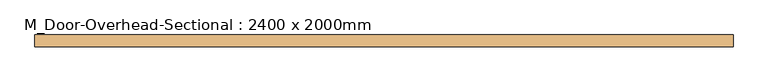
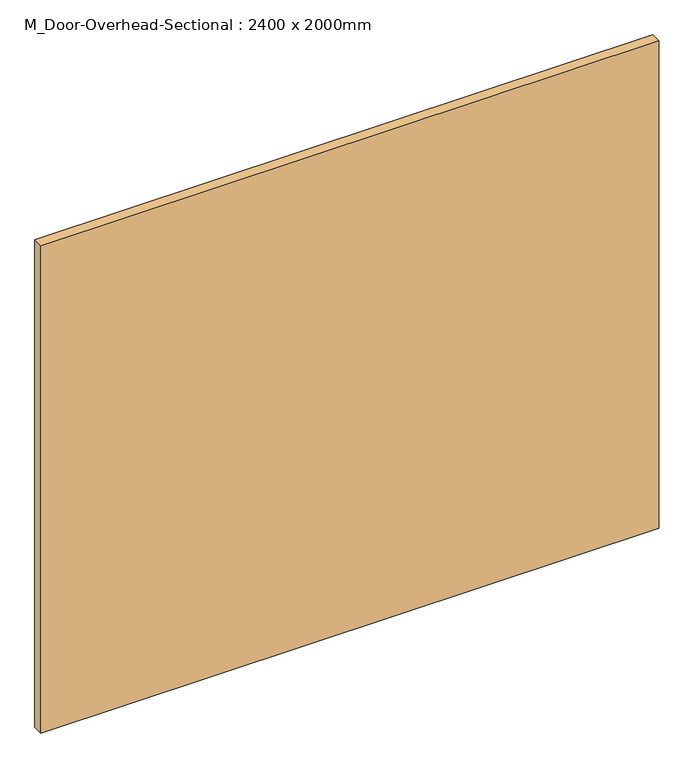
"""IFC4 building model written with IfcOpenShell, lengths in millimetres: door geometry, M_Door-Overhead-Sectional : 2400 x 2000mm."""

from ifc_helpers import new_model, si_unit, origin, origin_with_axes, place, context, project, spatial, polyline, outline, extrude, source, transform, mapped, element, save


def m_door_overhead_sectional_2400_x_2000mm_9fe30cd6(model_context):
    return source(origin(), model_context, "Body", "SweptSolid", [
        extrude(outline(polyline([(1200.0, -199.0), (1200.0, -239.0), (-1200.0, -239.0), (-1200.0, -199.0), (1200.0, -199.0)])), origin_with_axes(), (0.0, 0.0, 1.0), 2000.0),
    ])


if __name__ == "__main__":
    model = new_model("IFC4")
    model_context = context("Model", 3, world=origin())
    ifc_project = project(units=[si_unit("LENGTHUNIT", "METRE", prefix="MILLI")], contexts=[model_context])
    site = spatial("IfcSite", under=ifc_project)
    building = spatial("IfcBuilding", under=site)
    placement = place(None, origin())
    m_door_overhead_sectional_2400_x_2000mm_shape = m_door_overhead_sectional_2400_x_2000mm_9fe30cd6(model_context)
    element("IfcDoor", 1, ObjectType="M_Door-Overhead-Sectional : 2400 x 2000mm", at=placement, inside=building, context=model_context, shape_type="MappedRepresentation", body=[
        mapped(m_door_overhead_sectional_2400_x_2000mm_shape, transform((0.0, 0.0, 0.0), x_axis=(1.0, 0.0, 0.0), y_axis=(0.0, 1.0, 0.0), z_axis=(0.0, 0.0, 1.0))),
    ])
    save(model, "model.ifc")
